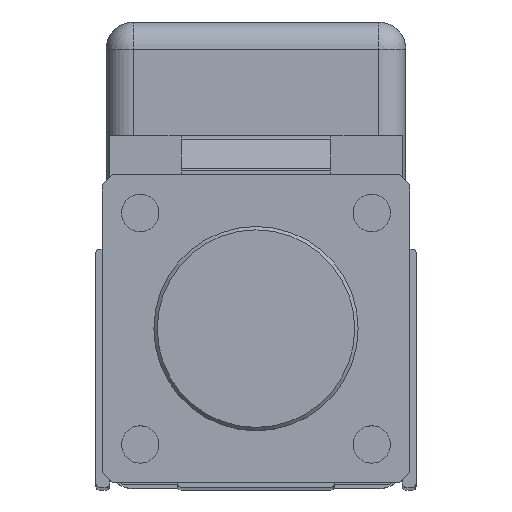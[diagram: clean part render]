
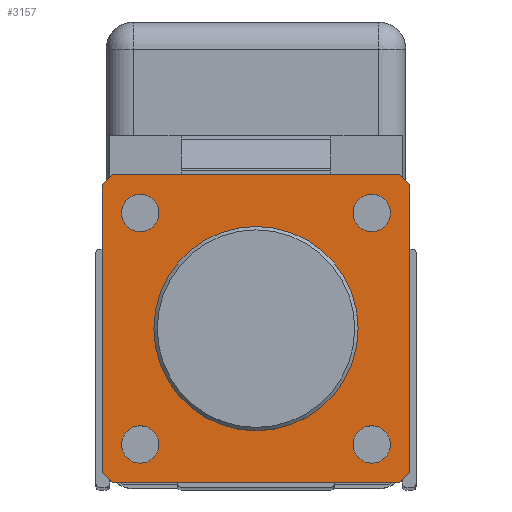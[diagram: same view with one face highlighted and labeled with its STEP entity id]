
A CAD part, top view. The second image highlights one B-rep face of the part: STEP entity #3157.
In plain terms, the highlighted planar face has unit normal (0, 0, 1).
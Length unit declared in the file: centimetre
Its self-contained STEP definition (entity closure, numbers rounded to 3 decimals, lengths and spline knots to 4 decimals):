
#409=VECTOR('',#3836,1.);
#412=VECTOR('',#3840,1.);
#414=VECTOR('',#3843,1.);
#417=VECTOR('',#3847,1.);
#420=VECTOR('',#3851,1.);
#423=VECTOR('',#3855,1.);
#427=VECTOR('',#3860,1.);
#430=VECTOR('',#3864,1.);
#652=LINE('',#4802,#409);
#655=LINE('',#4808,#412);
#657=LINE('',#4812,#414);
#660=LINE('',#4818,#417);
#663=LINE('',#4823,#420);
#666=LINE('',#4830,#423);
#670=LINE('',#4838,#427);
#673=LINE('',#4843,#430);
#855=PLANE('',#3388);
#990=VERTEX_POINT('',#4744);
#1017=VERTEX_POINT('',#4803);
#1018=VERTEX_POINT('',#4804);
#1019=VERTEX_POINT('',#4809);
#1020=VERTEX_POINT('',#4813);
#1022=VERTEX_POINT('',#4819);
#1023=VERTEX_POINT('',#4824);
#1026=VERTEX_POINT('',#4831);
#1029=VERTEX_POINT('',#4839);
#1030=VERTEX_POINT('',#4846);
#1032=VERTEX_POINT('',#4851);
#1033=VERTEX_POINT('',#4854);
#1034=VERTEX_POINT('',#4857);
#1230=CIRCLE('',#3356,1.5);
#1243=CIRCLE('',#3380,0.275);
#1245=CIRCLE('',#3383,0.275);
#1246=CIRCLE('',#3385,0.275);
#1247=CIRCLE('',#3387,0.275);
#1445=EDGE_CURVE('',#990,#990,#1230,.T.);
#1474=EDGE_CURVE('',#1017,#1018,#652,.T.);
#1477=EDGE_CURVE('',#1018,#1019,#655,.T.);
#1479=EDGE_CURVE('',#1019,#1020,#657,.T.);
#1482=EDGE_CURVE('',#1020,#1022,#660,.T.);
#1485=EDGE_CURVE('',#1022,#1023,#663,.T.);
#1489=EDGE_CURVE('',#1023,#1026,#666,.T.);
#1493=EDGE_CURVE('',#1026,#1029,#670,.T.);
#1496=EDGE_CURVE('',#1029,#1017,#673,.T.);
#1497=EDGE_CURVE('',#1030,#1030,#1243,.T.);
#1499=EDGE_CURVE('',#1032,#1032,#1245,.T.);
#1500=EDGE_CURVE('',#1033,#1033,#1246,.T.);
#1501=EDGE_CURVE('',#1034,#1034,#1247,.T.);
#2023=ORIENTED_EDGE('',*,*,#1445,.T.);
#2024=ORIENTED_EDGE('',*,*,#1501,.F.);
#2025=ORIENTED_EDGE('',*,*,#1500,.F.);
#2026=ORIENTED_EDGE('',*,*,#1499,.F.);
#2027=ORIENTED_EDGE('',*,*,#1497,.F.);
#2028=ORIENTED_EDGE('',*,*,#1474,.F.);
#2029=ORIENTED_EDGE('',*,*,#1496,.F.);
#2030=ORIENTED_EDGE('',*,*,#1493,.F.);
#2031=ORIENTED_EDGE('',*,*,#1489,.F.);
#2032=ORIENTED_EDGE('',*,*,#1485,.F.);
#2033=ORIENTED_EDGE('',*,*,#1482,.F.);
#2034=ORIENTED_EDGE('',*,*,#1479,.F.);
#2035=ORIENTED_EDGE('',*,*,#1477,.F.);
#2684=EDGE_LOOP('',(#2023));
#2685=EDGE_LOOP('',(#2024));
#2686=EDGE_LOOP('',(#2025));
#2687=EDGE_LOOP('',(#2026));
#2688=EDGE_LOOP('',(#2027));
#2689=EDGE_LOOP('',(#2028,#2029,#2030,#2031,#2032,#2033,#2034,#2035));
#2939=FACE_BOUND('',#2684,.T.);
#2940=FACE_BOUND('',#2685,.T.);
#2941=FACE_BOUND('',#2686,.T.);
#2942=FACE_BOUND('',#2687,.T.);
#2943=FACE_BOUND('',#2688,.T.);
#2944=FACE_BOUND('',#2689,.T.);
#3157=ADVANCED_FACE('',(#2939,#2940,#2941,#2942,#2943,#2944),#855,.T.);
#3356=AXIS2_PLACEMENT_3D('',#4743,#3791,#3792);
#3380=AXIS2_PLACEMENT_3D('',#4845,#3867,#3868);
#3383=AXIS2_PLACEMENT_3D('',#4850,#3873,#3874);
#3385=AXIS2_PLACEMENT_3D('',#4853,#3877,#3878);
#3387=AXIS2_PLACEMENT_3D('',#4856,#3881,#3882);
#3388=AXIS2_PLACEMENT_3D('',#4858,#3883,$);
#3791=DIRECTION('',(0.,0.,-1.));
#3792=DIRECTION('',(1.5,0.,0.));
#3836=DIRECTION('',(1.,0.,0.));
#3840=DIRECTION('',(0.707,-0.707,0.));
#3843=DIRECTION('',(0.,-1.,0.));
#3847=DIRECTION('',(-0.707,-0.707,0.));
#3851=DIRECTION('',(-1.,0.,0.));
#3855=DIRECTION('',(-0.707,0.707,0.));
#3860=DIRECTION('',(0.,1.,0.));
#3864=DIRECTION('',(0.707,0.707,0.));
#3867=DIRECTION('',(0.,0.,1.));
#3868=DIRECTION('',(0.275,0.,0.));
#3873=DIRECTION('',(0.,0.,1.));
#3874=DIRECTION('',(0.275,0.,0.));
#3877=DIRECTION('',(0.,0.,1.));
#3878=DIRECTION('',(0.275,0.,0.));
#3881=DIRECTION('',(0.,0.,1.));
#3882=DIRECTION('',(0.275,0.,0.));
#3883=DIRECTION('',(0.,0.,1.));
#4743=CARTESIAN_POINT('',(0.,0.,23.));
#4744=CARTESIAN_POINT('',(1.5,0.,23.));
#4802=CARTESIAN_POINT('',(2.11,2.26,23.));
#4803=CARTESIAN_POINT('',(-2.11,2.26,23.));
#4804=CARTESIAN_POINT('',(2.11,2.26,23.));
#4808=CARTESIAN_POINT('',(2.26,2.11,23.));
#4809=CARTESIAN_POINT('',(2.26,2.11,23.));
#4812=CARTESIAN_POINT('',(2.26,-2.11,23.));
#4813=CARTESIAN_POINT('',(2.26,-2.11,23.));
#4818=CARTESIAN_POINT('',(2.11,-2.26,23.));
#4819=CARTESIAN_POINT('',(2.11,-2.26,23.));
#4823=CARTESIAN_POINT('',(-2.11,-2.26,23.));
#4824=CARTESIAN_POINT('',(-2.11,-2.26,23.));
#4830=CARTESIAN_POINT('',(-2.26,-2.11,23.));
#4831=CARTESIAN_POINT('',(-2.26,-2.11,23.));
#4838=CARTESIAN_POINT('',(-2.26,2.11,23.));
#4839=CARTESIAN_POINT('',(-2.26,2.11,23.));
#4843=CARTESIAN_POINT('',(-2.11,2.26,23.));
#4845=CARTESIAN_POINT('',(-1.7,-1.7,23.));
#4846=CARTESIAN_POINT('',(-1.425,-1.7,23.));
#4850=CARTESIAN_POINT('',(-1.7,1.7,23.));
#4851=CARTESIAN_POINT('',(-1.425,1.7,23.));
#4853=CARTESIAN_POINT('',(1.7,1.7,23.));
#4854=CARTESIAN_POINT('',(1.975,1.7,23.));
#4856=CARTESIAN_POINT('',(1.7,-1.7,23.));
#4857=CARTESIAN_POINT('',(1.975,-1.7,23.));
#4858=CARTESIAN_POINT('',(0.,0.,23.));
